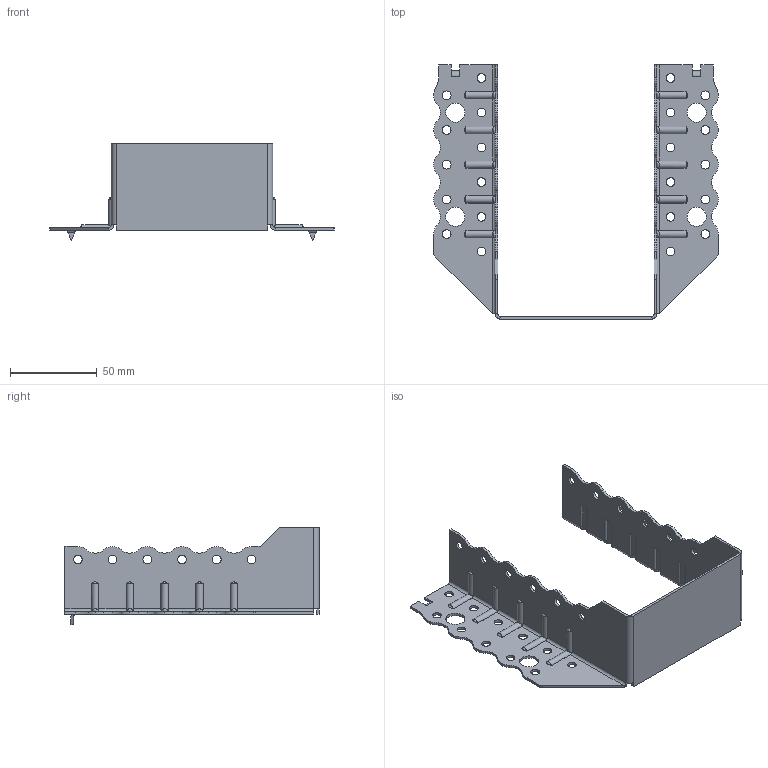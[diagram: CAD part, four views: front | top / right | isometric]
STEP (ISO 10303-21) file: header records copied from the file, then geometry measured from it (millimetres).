
FILE_DESCRIPTION (( 'STEP AP203' ), '1' );
FILE_NAME ('30621TOPK.STEP', '2021-04-08T14:45:42', ( '' ), ( '' ), 'SwSTEP 2.0', 'SolidWorks 2013', '' );
FILE_SCHEMA (( 'CONFIG_CONTROL_DESIGN' ));
Length unit declared in the file: millimetre
Products named in the file (1): 30621TOPK
Bounding box: 164 x 146.5 x 56 mm (x, y, z)
Volume: 35184.9 mm3; surface area: 50269.1 mm2
Topology: 1 solids, 1 shells, 426 faces, 1148 edges, 724 vertices
Faces by surface type: cylinder 267, plane 119, torus 20, bspline 20
Entity records: 15806 total; most frequent: CARTESIAN_POINT 4995, ORIENTED_EDGE 2296, DIRECTION 2214, EDGE_CURVE 1148, AXIS2_PLACEMENT_3D 807, VERTEX_POINT 724, VECTOR 600, LINE 600
